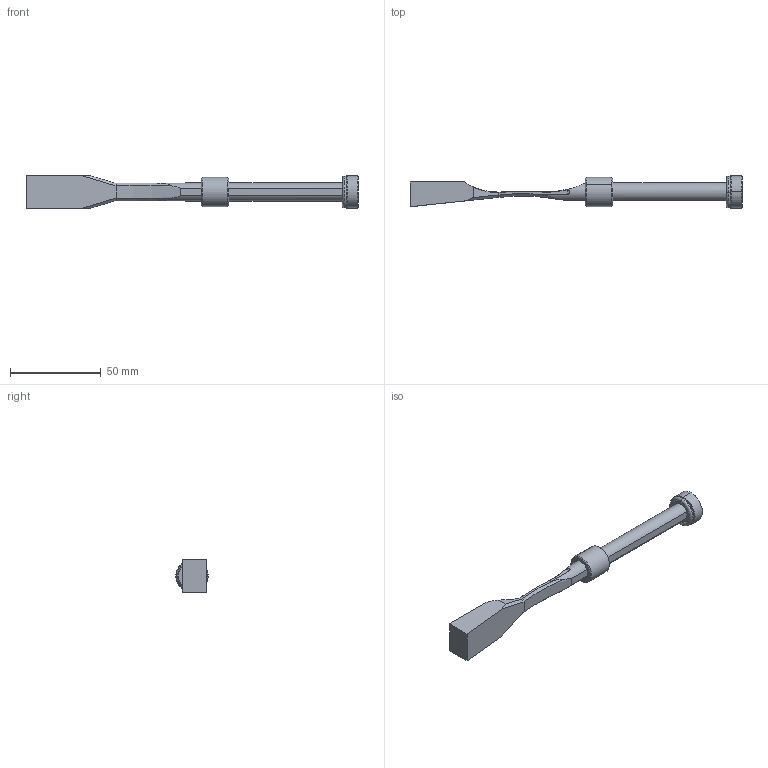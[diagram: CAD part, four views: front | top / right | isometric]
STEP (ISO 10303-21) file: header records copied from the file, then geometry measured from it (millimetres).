
FILE_DESCRIPTION (( 'STEP AP214' ), '1' );
FILE_NAME ('PW101830-TANCADA.STEP', '2020-02-10T08:51:01', ( '' ), ( '' ), 'SwSTEP 2.0', 'SolidWorks 2018', '' );
FILE_SCHEMA (( 'AUTOMOTIVE_DESIGN' ));
Length unit declared in the file: millimetre
Products named in the file (6): 9PW101830 TANCADA; 9CS101615; PW101830-TANCADA; 9FP1808M6; 1DIN7984616_DIN 7984 - M6 x 16 --- 16C; 3JT12.5X2.5X17.5
Assembly tree (5 placements, depth 2):
  PW101830-TANCADA
    9PW101830 TANCADA
    9CS101615
    9FP1808M6
    3JT12.5X2.5X17.5
    1DIN7984616_DIN 7984 - M6 x 16 --- 16C
Bounding box: 183 x 17.8 x 18.2 mm (x, y, z)
Volume: 19336.9 mm3; surface area: 10655.3 mm2
Topology: 5 solids, 5 shells, 106 faces, 237 edges, 140 vertices
Faces by surface type: plane 36, cone 28, cylinder 24, torus 16, bspline 2
Entity records: 3529 total; most frequent: CARTESIAN_POINT 709, DIRECTION 547, ORIENTED_EDGE 466, EDGE_CURVE 233, AXIS2_PLACEMENT_3D 220, VERTEX_POINT 140, EDGE_LOOP 115, CIRCLE 108
